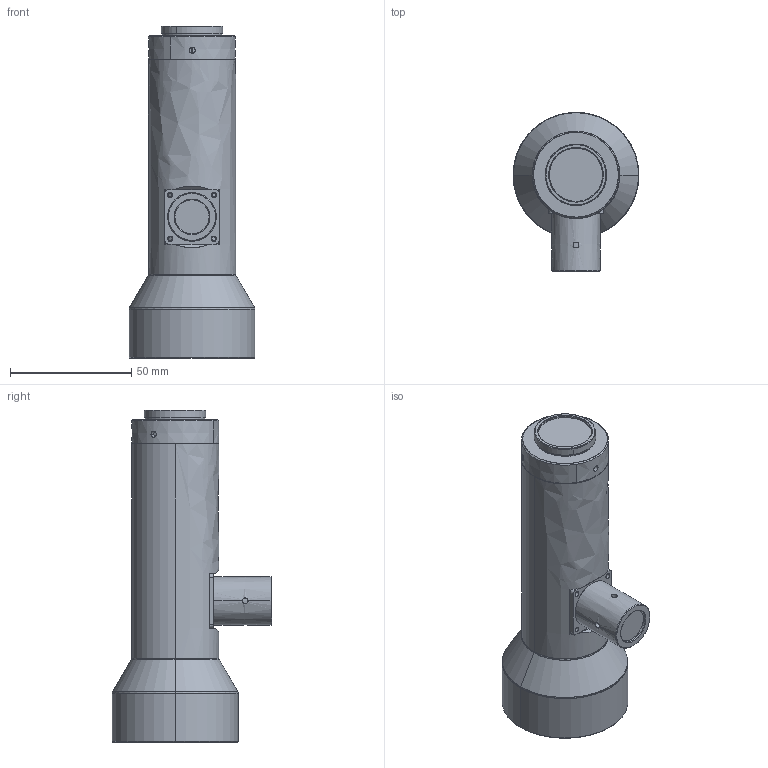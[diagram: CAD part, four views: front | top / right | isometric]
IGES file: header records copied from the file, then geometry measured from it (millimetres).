
Start section: SolidWorks IGES file using analytic representation for surfaces
Global section: file name: E:\图纸\镜头\WWK\K05063-110系列\WWK063-110-111V3\A3.0\发客户3D\WWK063-110C-111V3.IGS; native system: SolidWorks 2017; preprocessor: SolidWorks 2017; author: gc; date: 230323.175451; units: millimetre
Bounding box: 52 x 65.9 x 137.16 mm (x, y, z)
Surface area: 22750.9 mm2 (no closed solid volume)
Topology: 0 solids, 0 shells, 144 faces, 3072 edges, 3072 vertices
Faces by surface type: revolution 105, bspline 39
